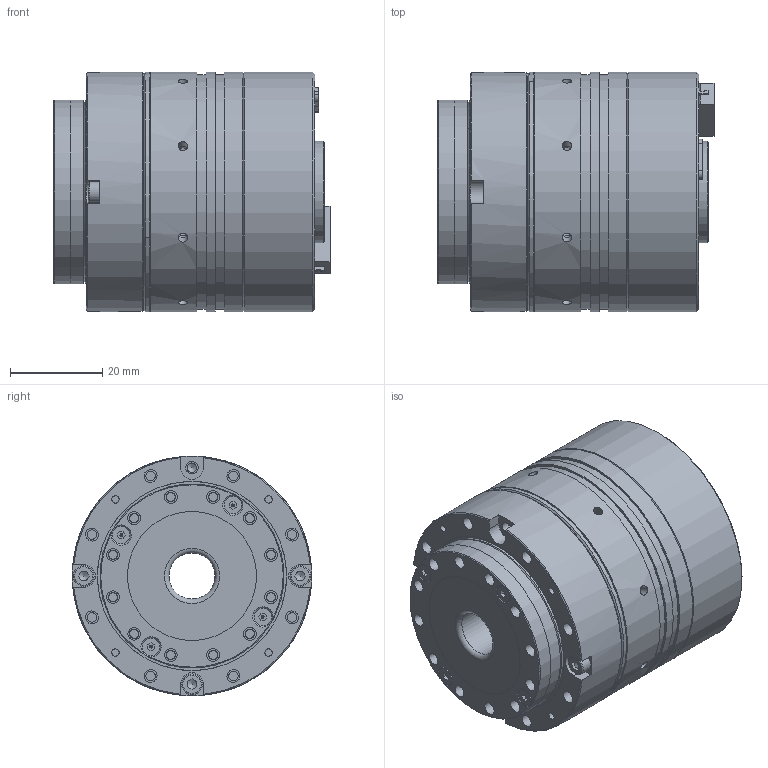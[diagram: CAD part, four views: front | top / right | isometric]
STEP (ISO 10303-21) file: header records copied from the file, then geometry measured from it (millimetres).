
FILE_DESCRIPTION( ('This file contains a STEP AP42 implementation' ,'as created by ZW3D STEP Interface translator.') ,'2;1' );
FILE_NAME( 'HJ2-11.stp' ,'25 820.145617', (''), ('ZWCAD Software Co.'), 'Version 1.0', 'ZW3D to STEP translator', '' );
FILE_SCHEMA(('AUTOMOTIVE_DESIGN { 1 0 10303 214 1 1 1 1 }'));
Length unit declared in the file: millimetre
Products named in the file (1): 0
Bounding box: 59.9 x 52 x 52 mm (x, y, z)
Volume: 105420.1 mm3; surface area: 33469.5 mm2
Topology: 36 solids, 52 shells, 5053 faces, 13790 edges, 8955 vertices
Faces by surface type: plane 3973, cylinder 645, cone 232, bspline 137, torus 58, sphere 8
Full cylindrical faces by diameter (mm): 1.6 x20, 1.74 x8, 2 x8, 2.05 x48, 2.2 x12, 2.5 x6, 2.7 x8, 2.8 x28, 3 x1, 3.8 x8, 4.1 x4, 4.5 x3, 10 x1, 13 x1, 14 x1, 21 x1, 22 x1, 28 x1, 28.5 x1, 32 x1, 38.5 x1, 40 x2, 41.1 x1, 43 x3, 49.7 x1, 51 x2, 52 x5
Entity records: 163997 total; most frequent: CARTESIAN_POINT 31608, ORIENTED_EDGE 27471, DIRECTION 24484, EDGE_CURVE 13737, VECTOR 11400, LINE 11400, VERTEX_POINT 8954, AXIS2_PLACEMENT_3D 6542
